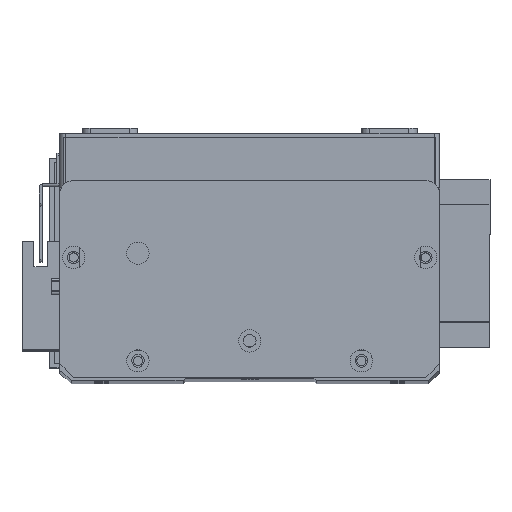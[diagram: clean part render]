
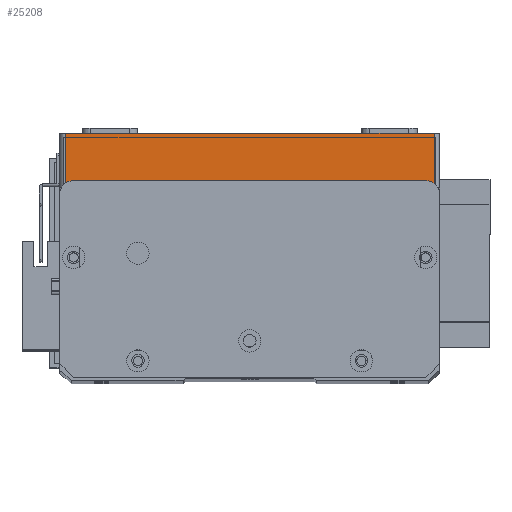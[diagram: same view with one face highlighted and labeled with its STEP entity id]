
A CAD part, top view. The second image highlights one B-rep face of the part: STEP entity #25208.
In plain terms, the highlighted planar face has unit normal (0, 0, 1) as drawn and (0, -1, 0) by its records, which use the part's own axes.
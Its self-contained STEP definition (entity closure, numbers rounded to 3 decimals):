
#1092 = PLANE ( 'NONE',  #7495 ) ;
#2655 = EDGE_CURVE ( 'NONE', #18738, #15892, #12788, .T. ) ;
#5553 = DIRECTION ( 'NONE',  ( 1., 0., 0. ) ) ;
#5566 = DIRECTION ( 'NONE',  ( 0., 1., 0. ) ) ;
#6013 = EDGE_CURVE ( 'NONE', #15892, #25565, #8978, .T. ) ;
#6316 = FACE_OUTER_BOUND ( 'NONE', #19652, .T. ) ;
#7195 = CARTESIAN_POINT ( 'NONE',  ( 134., 0., 0. ) ) ;
#7493 = EDGE_CURVE ( 'NONE', #18482, #18738, #15472, .T. ) ;
#7495 = AXIS2_PLACEMENT_3D ( 'NONE', #18905, #5566, #21148 ) ;
#7821 = CARTESIAN_POINT ( 'NONE',  ( 0., 0., 19.5 ) ) ;
#8978 = LINE ( 'NONE', #27236, #25956 ) ;
#11330 = ORIENTED_EDGE ( 'NONE', *, *, #7493, .T. ) ;
#11669 = ORIENTED_EDGE ( 'NONE', *, *, #2655, .T. ) ;
#12289 = DIRECTION ( 'NONE',  ( 1., 0., 0. ) ) ;
#12788 = LINE ( 'NONE', #21121, #24563 ) ;
#13534 = CARTESIAN_POINT ( 'NONE',  ( 134., 0., 19.5 ) ) ;
#14094 = VECTOR ( 'NONE', #17888, 1000. ) ;
#15472 = LINE ( 'NONE', #24568, #14094 ) ;
#15892 = VERTEX_POINT ( 'NONE', #7195 ) ;
#17888 = DIRECTION ( 'NONE',  ( 0., 0., -1. ) ) ;
#18081 = CARTESIAN_POINT ( 'NONE',  ( 2., 0., 0. ) ) ;
#18482 = VERTEX_POINT ( 'NONE', #23790 ) ;
#18738 = VERTEX_POINT ( 'NONE', #18081 ) ;
#18905 = CARTESIAN_POINT ( 'NONE',  ( 0., 0., 19.5 ) ) ;
#19276 = VECTOR ( 'NONE', #5553, 1000. ) ;
#19652 = EDGE_LOOP ( 'NONE', ( #19841, #11330, #11669, #22433 ) ) ;
#19841 = ORIENTED_EDGE ( 'NONE', *, *, #27098, .F. ) ;
#21121 = CARTESIAN_POINT ( 'NONE',  ( 0., 0., 0. ) ) ;
#21148 = DIRECTION ( 'NONE',  ( 0., 0., 1. ) ) ;
#22433 = ORIENTED_EDGE ( 'NONE', *, *, #6013, .T. ) ;
#23790 = CARTESIAN_POINT ( 'NONE',  ( 2., 0., 19.5 ) ) ;
#24563 = VECTOR ( 'NONE', #12289, 1000. ) ;
#24568 = CARTESIAN_POINT ( 'NONE',  ( 2., 0., 19.5 ) ) ;
#25005 = DIRECTION ( 'NONE',  ( 0., 0., 1. ) ) ;
#25147 = LINE ( 'NONE', #7821, #19276 ) ;
#25208 = ADVANCED_FACE ( 'NONE', ( #6316 ), #1092, .F. ) ;
#25565 = VERTEX_POINT ( 'NONE', #13534 ) ;
#25956 = VECTOR ( 'NONE', #25005, 1000. ) ;
#27098 = EDGE_CURVE ( 'NONE', #18482, #25565, #25147, .T. ) ;
#27236 = CARTESIAN_POINT ( 'NONE',  ( 134., 0., 19.5 ) ) ;
